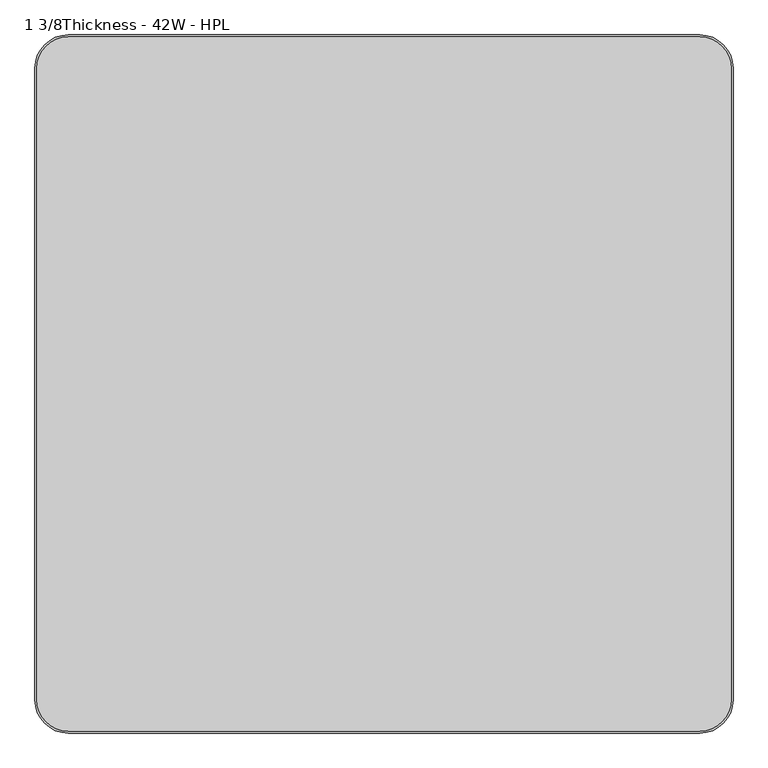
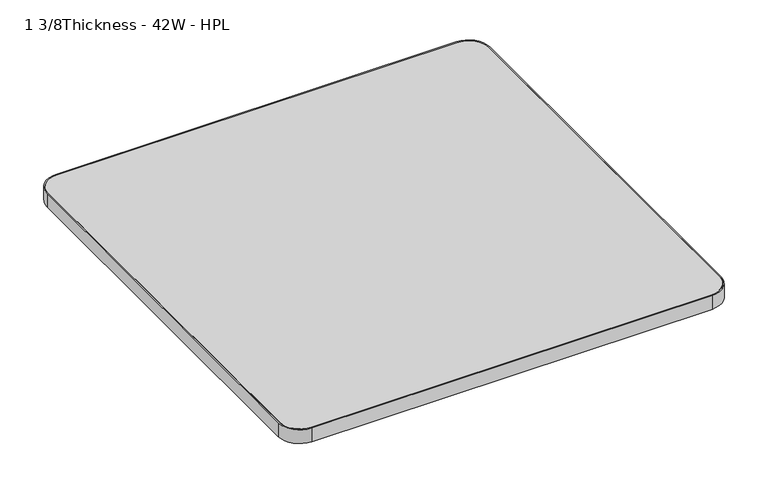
"""IFC4 building model written with IfcOpenShell, lengths in millimetres: furniture geometry, Steelcase - Groupwork - Table - Top - Square : 1 3/8Thickness - 42W - HPL."""

from ifc_helpers import new_model, si_unit, point, frame, frame_2d, origin, place, context, project, spatial, polyline, circle_curve, trimmed, segment, composite_curve, outline, extrude, source, transform, mapped, element, save


def furniture_1_3_8thickness_42w_hpl_310ea54f(model_context):
    return source(origin(), model_context, "Body", "SweptSolid", [
        extrude(outline(composite_curve([segment(polyline([(-511.048, 530.4), (454.248, 530.4)]), True, "CONTINUOUS"), segment(trimmed(circle_curve(frame_2d((454.248, 482.648)), 47.752), [point((454.248, 530.4))], [point((502.0, 482.648))], False, "CARTESIAN"), True, "CONTINUOUS"), segment(polyline([(502.0, 482.648), (502.0, -482.648)]), True, "CONTINUOUS"), segment(trimmed(circle_curve(frame_2d((454.248, -482.648)), 47.752), [point((502.0, -482.648))], [point((454.248, -530.4))], False, "CARTESIAN"), True, "CONTINUOUS"), segment(polyline([(454.248, -530.4), (-511.048, -530.4)]), True, "CONTINUOUS"), segment(trimmed(circle_curve(frame_2d((-511.048, -482.648)), 47.752), [point((-511.048, -530.4))], [point((-558.8, -482.648))], False, "CARTESIAN"), True, "CONTINUOUS"), segment(polyline([(-558.8, -482.648), (-558.8, 482.648)]), True, "CONTINUOUS"), segment(trimmed(circle_curve(frame_2d((-511.048, 482.648)), 47.752), [point((-558.8, 482.648))], [point((-511.048, 530.4))], False, "CARTESIAN"), True, "CONTINUOUS")], self_intersect=False)), frame((0.0, 0.0, 695.579), z_axis=(0.0, 0.0, 1.0), x_axis=(1.0, 0.0, 0.0)), (0.0, 0.0, 1.0), 35.052),
        extrude(outline(composite_curve([segment(trimmed(circle_curve(frame_2d((454.2, 482.6)), 50.8), [point((454.2, 533.4))], [point((505.0, 482.6))], False, "CARTESIAN"), True, "CONTINUOUS"), segment(polyline([(505.0, 482.6), (505.0, -482.6)]), True, "CONTINUOUS"), segment(trimmed(circle_curve(frame_2d((454.2, -482.6)), 50.8), [point((505.0, -482.6))], [point((454.2, -533.4))], False, "CARTESIAN"), True, "CONTINUOUS"), segment(polyline([(454.2, -533.4), (-511.0, -533.4)]), True, "CONTINUOUS"), segment(trimmed(circle_curve(frame_2d((-511.0, -482.6)), 50.8), [point((-511.0, -533.4))], [point((-561.8, -482.6))], False, "CARTESIAN"), True, "CONTINUOUS"), segment(polyline([(-561.8, -482.6), (-561.8, 482.6)]), True, "CONTINUOUS"), segment(trimmed(circle_curve(frame_2d((-511.0, 482.6)), 50.8), [point((-561.8, 482.6))], [point((-511.0, 533.4))], False, "CARTESIAN"), True, "CONTINUOUS"), segment(polyline([(-511.0, 533.4), (454.2, 533.4)]), True, "CONTINUOUS")], self_intersect=False), holes=[composite_curve([segment(polyline([(454.248, 530.4), (-511.048, 530.4)]), True, "CONTINUOUS"), segment(trimmed(circle_curve(frame_2d((-511.048, 482.648)), 47.752), [point((-511.048, 530.4))], [point((-558.8, 482.648))], True, "CARTESIAN"), True, "CONTINUOUS"), segment(polyline([(-558.8, 482.648), (-558.8, -482.648)]), True, "CONTINUOUS"), segment(trimmed(circle_curve(frame_2d((-511.048, -482.648)), 47.752), [point((-558.8, -482.648))], [point((-511.048, -530.4))], True, "CARTESIAN"), True, "CONTINUOUS"), segment(polyline([(-511.048, -530.4), (454.248, -530.4)]), True, "CONTINUOUS"), segment(trimmed(circle_curve(frame_2d((454.248, -482.648)), 47.752), [point((454.248, -530.4))], [point((502.0, -482.648))], True, "CARTESIAN"), True, "CONTINUOUS"), segment(polyline([(502.0, -482.648), (502.0, 482.648)]), True, "CONTINUOUS"), segment(trimmed(circle_curve(frame_2d((454.248, 482.648)), 47.752), [point((502.0, 482.648))], [point((454.248, 530.4))], True, "CARTESIAN"), True, "CONTINUOUS")], self_intersect=False)]), frame((0.0, 0.0, 695.579), z_axis=(0.0, 0.0, 1.0), x_axis=(1.0, 0.0, 0.0)), (0.0, 0.0, 1.0), 35.052),
    ])


if __name__ == "__main__":
    model = new_model("IFC4")
    model_context = context("Model", 3, world=origin())
    ifc_project = project(units=[si_unit("LENGTHUNIT", "METRE", prefix="MILLI")], contexts=[model_context])
    site = spatial("IfcSite", under=ifc_project)
    building = spatial("IfcBuilding", under=site)
    placement = place(None, origin())
    furniture_1_3_8thickness_42w_hpl_shape = furniture_1_3_8thickness_42w_hpl_310ea54f(model_context)
    element("IfcFurniture", 1, ObjectType="Steelcase - Groupwork - Table - Top - Square : 1 3/8Thickness - 42W - HPL", at=placement, inside=building, context=model_context, shape_type="MappedRepresentation", body=[
        mapped(furniture_1_3_8thickness_42w_hpl_shape, transform((0.0, 0.0, 0.0), x_axis=(1.0, 0.0, 0.0), y_axis=(0.0, 1.0, 0.0), z_axis=(0.0, 0.0, 1.0))),
    ])
    save(model, "model.ifc")
